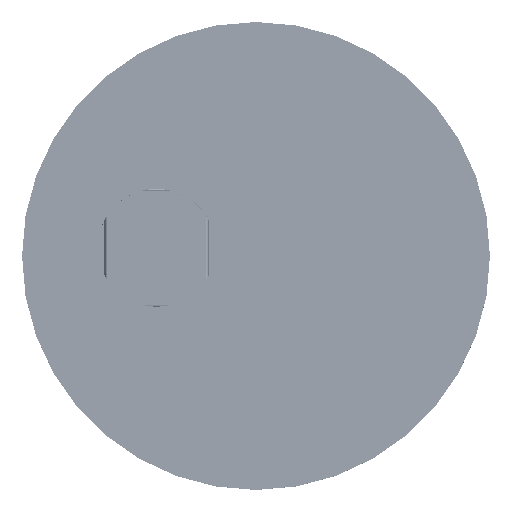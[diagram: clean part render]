
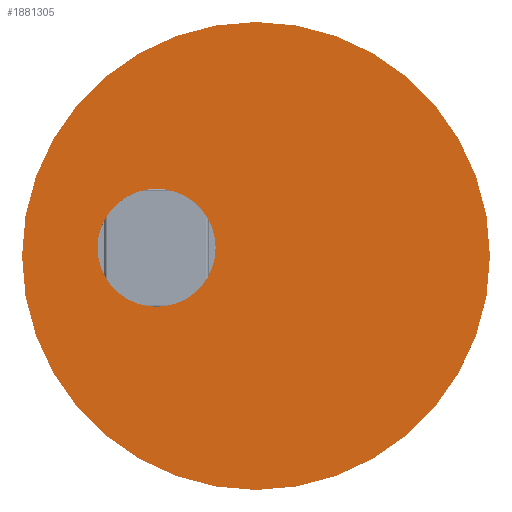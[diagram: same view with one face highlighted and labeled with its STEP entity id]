
A CAD part, top view. The second image highlights one B-rep face of the part: STEP entity #1881305.
In plain terms, the highlighted planar face has unit normal (0, 0, 1).
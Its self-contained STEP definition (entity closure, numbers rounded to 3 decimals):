
#1881187 = VERTEX_POINT('',#1881188);
#1881188 = CARTESIAN_POINT('',(20.,0.,44.146));
#1881197 = CYLINDRICAL_SURFACE('',#1881198,20.);
#1881198 = AXIS2_PLACEMENT_3D('',#1881199,#1881200,#1881201);
#1881199 = CARTESIAN_POINT('',(0.,0.,43.12));
#1881200 = DIRECTION('',(-0.,-0.,-1.));
#1881201 = DIRECTION('',(1.,0.,0.));
#1881216 = EDGE_CURVE('',#1881187,#1881187,#1881217,.T.);
#1881217 = SURFACE_CURVE('',#1881218,(#1881223,#1881230),.PCURVE_S1.);
#1881218 = CIRCLE('',#1881219,20.);
#1881219 = AXIS2_PLACEMENT_3D('',#1881220,#1881221,#1881222);
#1881220 = CARTESIAN_POINT('',(0.,0.,44.146));
#1881221 = DIRECTION('',(0.,0.,1.));
#1881222 = DIRECTION('',(1.,0.,-0.));
#1881223 = PCURVE('',#1881197,#1881224);
#1881224 = DEFINITIONAL_REPRESENTATION('',(#1881225),#1881229);
#1881225 = LINE('',#1881226,#1881227);
#1881226 = CARTESIAN_POINT('',(6.283,-1.026));
#1881227 = VECTOR('',#1881228,1.);
#1881228 = DIRECTION('',(-1.,0.));
#1881229 = ( GEOMETRIC_REPRESENTATION_CONTEXT(2) 
PARAMETRIC_REPRESENTATION_CONTEXT() REPRESENTATION_CONTEXT('2D SPACE',''
  ) );
#1881230 = PCURVE('',#1881231,#1881236);
#1881231 = PLANE('',#1881232);
#1881232 = AXIS2_PLACEMENT_3D('',#1881233,#1881234,#1881235);
#1881233 = CARTESIAN_POINT('',(0.,0.,
    44.146));
#1881234 = DIRECTION('',(0.,0.,1.));
#1881235 = DIRECTION('',(1.,0.,-0.));
#1881236 = DEFINITIONAL_REPRESENTATION('',(#1881237),#1881241);
#1881237 = CIRCLE('',#1881238,20.);
#1881238 = AXIS2_PLACEMENT_2D('',#1881239,#1881240);
#1881239 = CARTESIAN_POINT('',(0.,0.));
#1881240 = DIRECTION('',(1.,0.));
#1881241 = ( GEOMETRIC_REPRESENTATION_CONTEXT(2) 
PARAMETRIC_REPRESENTATION_CONTEXT() REPRESENTATION_CONTEXT('2D SPACE',''
  ) );
#1881305 = ADVANCED_FACE('',(#1881306,#1881309),#1881231,.T.);
#1881306 = FACE_BOUND('',#1881307,.T.);
#1881307 = EDGE_LOOP('',(#1881308));
#1881308 = ORIENTED_EDGE('',*,*,#1881216,.T.);
#1881309 = FACE_BOUND('',#1881310,.T.);
#1881310 = EDGE_LOOP('',(#1881311));
#1881311 = ORIENTED_EDGE('',*,*,#1881312,.T.);
#1881312 = EDGE_CURVE('',#1881313,#1881313,#1881315,.T.);
#1881313 = VERTEX_POINT('',#1881314);
#1881314 = CARTESIAN_POINT('',(-3.451,0.701,44.146));
#1881315 = SURFACE_CURVE('',#1881316,(#1881321,#1881332),.PCURVE_S1.);
#1881316 = CIRCLE('',#1881317,5.05);
#1881317 = AXIS2_PLACEMENT_3D('',#1881318,#1881319,#1881320);
#1881318 = CARTESIAN_POINT('',(-8.501,0.701,44.146));
#1881319 = DIRECTION('',(0.,0.,-1.));
#1881320 = DIRECTION('',(1.,0.,0.));
#1881321 = PCURVE('',#1881231,#1881322);
#1881322 = DEFINITIONAL_REPRESENTATION('',(#1881323),#1881331);
#1881323 = ( BOUNDED_CURVE() B_SPLINE_CURVE(2,(#1881324,#1881325,
    #1881326,#1881327,#1881328,#1881329,#1881330),.UNSPECIFIED.,.T.,.F.)
 B_SPLINE_CURVE_WITH_KNOTS((1,2,2,2,2,1),(-2.094,0.,
    2.094,4.189,6.283,8.378),
.UNSPECIFIED.) CURVE() GEOMETRIC_REPRESENTATION_ITEM() 
RATIONAL_B_SPLINE_CURVE((1.,0.5,1.,0.5,1.,0.5,1.)) REPRESENTATION_ITEM(
  '') );
#1881324 = CARTESIAN_POINT('',(-3.451,0.701));
#1881325 = CARTESIAN_POINT('',(-3.451,-8.046));
#1881326 = CARTESIAN_POINT('',(-11.026,-3.672));
#1881327 = CARTESIAN_POINT('',(-18.601,0.701));
#1881328 = CARTESIAN_POINT('',(-11.026,5.074));
#1881329 = CARTESIAN_POINT('',(-3.451,9.448));
#1881330 = CARTESIAN_POINT('',(-3.451,0.701));
#1881331 = ( GEOMETRIC_REPRESENTATION_CONTEXT(2) 
PARAMETRIC_REPRESENTATION_CONTEXT() REPRESENTATION_CONTEXT('2D SPACE',''
  ) );
#1881332 = PCURVE('',#1881333,#1881338);
#1881333 = CYLINDRICAL_SURFACE('',#1881334,5.05);
#1881334 = AXIS2_PLACEMENT_3D('',#1881335,#1881336,#1881337);
#1881335 = CARTESIAN_POINT('',(-8.501,0.701,42.12));
#1881336 = DIRECTION('',(-0.,-0.,-1.));
#1881337 = DIRECTION('',(1.,0.,0.));
#1881338 = DEFINITIONAL_REPRESENTATION('',(#1881339),#1881343);
#1881339 = LINE('',#1881340,#1881341);
#1881340 = CARTESIAN_POINT('',(0.,-2.026));
#1881341 = VECTOR('',#1881342,1.);
#1881342 = DIRECTION('',(1.,-0.));
#1881343 = ( GEOMETRIC_REPRESENTATION_CONTEXT(2) 
PARAMETRIC_REPRESENTATION_CONTEXT() REPRESENTATION_CONTEXT('2D SPACE',''
  ) );
